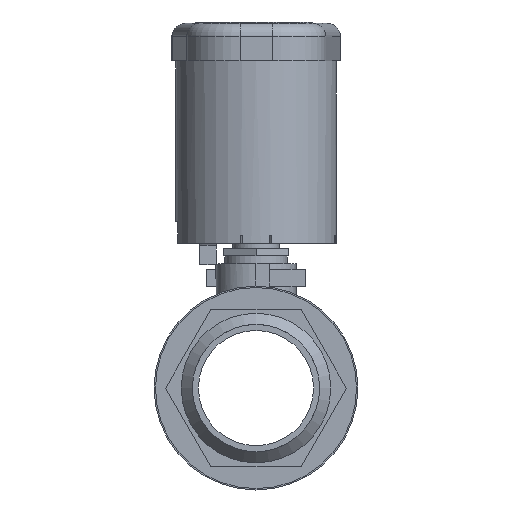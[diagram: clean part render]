
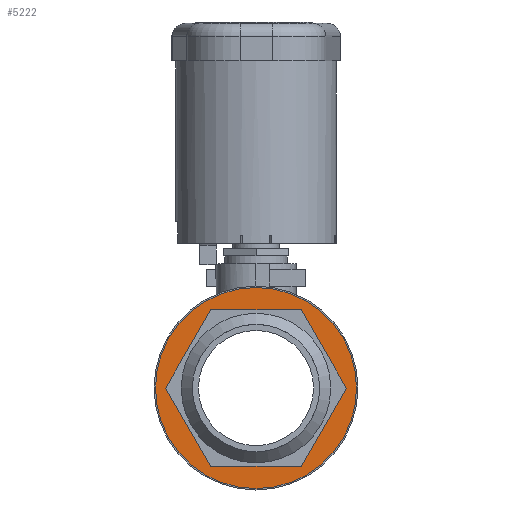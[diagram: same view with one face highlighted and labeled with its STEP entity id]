
A CAD part, left-side view. The second image highlights one B-rep face of the part: STEP entity #5222.
In plain terms, the highlighted planar face has unit normal (-1, 0, 0).
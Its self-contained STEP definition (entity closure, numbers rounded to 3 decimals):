
#5154 = CYLINDRICAL_SURFACE('',#5155,1.419);
#5155 = AXIS2_PLACEMENT_3D('',#5156,#5157,#5158);
#5156 = CARTESIAN_POINT('',(1.831,0.,
    0.));
#5157 = DIRECTION('',(1.,0.,0.));
#5158 = DIRECTION('',(0.,-1.,0.));
#5174 = VERTEX_POINT('',#5175);
#5175 = CARTESIAN_POINT('',(1.831,-1.419,0.));
#5195 = EDGE_CURVE('',#5174,#5174,#5196,.T.);
#5196 = SURFACE_CURVE('',#5197,(#5202,#5209),.PCURVE_S1.);
#5197 = CIRCLE('',#5198,1.419);
#5198 = AXIS2_PLACEMENT_3D('',#5199,#5200,#5201);
#5199 = CARTESIAN_POINT('',(1.831,0.,
    0.));
#5200 = DIRECTION('',(-1.,0.,0.));
#5201 = DIRECTION('',(0.,-1.,0.));
#5202 = PCURVE('',#5154,#5203);
#5203 = DEFINITIONAL_REPRESENTATION('',(#5204),#5208);
#5204 = LINE('',#5205,#5206);
#5205 = CARTESIAN_POINT('',(6.283,0.));
#5206 = VECTOR('',#5207,1.);
#5207 = DIRECTION('',(-1.,0.));
#5208 = ( GEOMETRIC_REPRESENTATION_CONTEXT(2) 
PARAMETRIC_REPRESENTATION_CONTEXT() REPRESENTATION_CONTEXT('2D SPACE',''
  ) );
#5209 = PCURVE('',#5210,#5215);
#5210 = PLANE('',#5211);
#5211 = AXIS2_PLACEMENT_3D('',#5212,#5213,#5214);
#5212 = CARTESIAN_POINT('',(1.831,0.,
    0.));
#5213 = DIRECTION('',(-1.,0.,0.));
#5214 = DIRECTION('',(0.,0.,1.));
#5215 = DEFINITIONAL_REPRESENTATION('',(#5216),#5220);
#5216 = CIRCLE('',#5217,1.419);
#5217 = AXIS2_PLACEMENT_2D('',#5218,#5219);
#5218 = CARTESIAN_POINT('',(0.,0.));
#5219 = DIRECTION('',(0.,-1.));
#5220 = ( GEOMETRIC_REPRESENTATION_CONTEXT(2) 
PARAMETRIC_REPRESENTATION_CONTEXT() REPRESENTATION_CONTEXT('2D SPACE',''
  ) );
#5222 = ADVANCED_FACE('',(#5223,#5393),#5210,.T.);
#5223 = FACE_BOUND('',#5224,.T.);
#5224 = EDGE_LOOP('',(#5225,#5255,#5283,#5311,#5339,#5367));
#5225 = ORIENTED_EDGE('',*,*,#5226,.T.);
#5226 = EDGE_CURVE('',#5227,#5229,#5231,.T.);
#5227 = VERTEX_POINT('',#5228);
#5228 = CARTESIAN_POINT('',(1.831,-0.638,1.105));
#5229 = VERTEX_POINT('',#5230);
#5230 = CARTESIAN_POINT('',(1.831,-1.276,0.));
#5231 = SURFACE_CURVE('',#5232,(#5236,#5243),.PCURVE_S1.);
#5232 = LINE('',#5233,#5234);
#5233 = CARTESIAN_POINT('',(1.831,-0.957,0.553));
#5234 = VECTOR('',#5235,1.);
#5235 = DIRECTION('',(0.,-0.5,-0.866));
#5236 = PCURVE('',#5210,#5237);
#5237 = DEFINITIONAL_REPRESENTATION('',(#5238),#5242);
#5238 = LINE('',#5239,#5240);
#5239 = CARTESIAN_POINT('',(0.553,-0.957));
#5240 = VECTOR('',#5241,1.);
#5241 = DIRECTION('',(-0.866,-0.5));
#5242 = ( GEOMETRIC_REPRESENTATION_CONTEXT(2) 
PARAMETRIC_REPRESENTATION_CONTEXT() REPRESENTATION_CONTEXT('2D SPACE',''
  ) );
#5243 = PCURVE('',#5244,#5249);
#5244 = PLANE('',#5245);
#5245 = AXIS2_PLACEMENT_3D('',#5246,#5247,#5248);
#5246 = CARTESIAN_POINT('',(1.456,-0.957,0.553));
#5247 = DIRECTION('',(0.,-0.866,0.5));
#5248 = DIRECTION('',(0.,-0.5,-0.866));
#5249 = DEFINITIONAL_REPRESENTATION('',(#5250),#5254);
#5250 = LINE('',#5251,#5252);
#5251 = CARTESIAN_POINT('',(0.,0.375));
#5252 = VECTOR('',#5253,1.);
#5253 = DIRECTION('',(1.,0.));
#5254 = ( GEOMETRIC_REPRESENTATION_CONTEXT(2) 
PARAMETRIC_REPRESENTATION_CONTEXT() REPRESENTATION_CONTEXT('2D SPACE',''
  ) );
#5255 = ORIENTED_EDGE('',*,*,#5256,.T.);
#5256 = EDGE_CURVE('',#5229,#5257,#5259,.T.);
#5257 = VERTEX_POINT('',#5258);
#5258 = CARTESIAN_POINT('',(1.831,-0.638,-1.105));
#5259 = SURFACE_CURVE('',#5260,(#5264,#5271),.PCURVE_S1.);
#5260 = LINE('',#5261,#5262);
#5261 = CARTESIAN_POINT('',(1.831,-0.957,-0.553));
#5262 = VECTOR('',#5263,1.);
#5263 = DIRECTION('',(0.,0.5,-0.866));
#5264 = PCURVE('',#5210,#5265);
#5265 = DEFINITIONAL_REPRESENTATION('',(#5266),#5270);
#5266 = LINE('',#5267,#5268);
#5267 = CARTESIAN_POINT('',(-0.553,-0.957));
#5268 = VECTOR('',#5269,1.);
#5269 = DIRECTION('',(-0.866,0.5));
#5270 = ( GEOMETRIC_REPRESENTATION_CONTEXT(2) 
PARAMETRIC_REPRESENTATION_CONTEXT() REPRESENTATION_CONTEXT('2D SPACE',''
  ) );
#5271 = PCURVE('',#5272,#5277);
#5272 = PLANE('',#5273);
#5273 = AXIS2_PLACEMENT_3D('',#5274,#5275,#5276);
#5274 = CARTESIAN_POINT('',(1.456,-0.957,-0.553));
#5275 = DIRECTION('',(0.,-0.866,-0.5));
#5276 = DIRECTION('',(0.,0.5,-0.866));
#5277 = DEFINITIONAL_REPRESENTATION('',(#5278),#5282);
#5278 = LINE('',#5279,#5280);
#5279 = CARTESIAN_POINT('',(0.,0.375));
#5280 = VECTOR('',#5281,1.);
#5281 = DIRECTION('',(1.,0.));
#5282 = ( GEOMETRIC_REPRESENTATION_CONTEXT(2) 
PARAMETRIC_REPRESENTATION_CONTEXT() REPRESENTATION_CONTEXT('2D SPACE',''
  ) );
#5283 = ORIENTED_EDGE('',*,*,#5284,.T.);
#5284 = EDGE_CURVE('',#5257,#5285,#5287,.T.);
#5285 = VERTEX_POINT('',#5286);
#5286 = CARTESIAN_POINT('',(1.831,0.638,-1.105));
#5287 = SURFACE_CURVE('',#5288,(#5292,#5299),.PCURVE_S1.);
#5288 = LINE('',#5289,#5290);
#5289 = CARTESIAN_POINT('',(1.831,0.,-1.105));
#5290 = VECTOR('',#5291,1.);
#5291 = DIRECTION('',(0.,1.,0.));
#5292 = PCURVE('',#5210,#5293);
#5293 = DEFINITIONAL_REPRESENTATION('',(#5294),#5298);
#5294 = LINE('',#5295,#5296);
#5295 = CARTESIAN_POINT('',(-1.105,0.));
#5296 = VECTOR('',#5297,1.);
#5297 = DIRECTION('',(0.,1.));
#5298 = ( GEOMETRIC_REPRESENTATION_CONTEXT(2) 
PARAMETRIC_REPRESENTATION_CONTEXT() REPRESENTATION_CONTEXT('2D SPACE',''
  ) );
#5299 = PCURVE('',#5300,#5305);
#5300 = PLANE('',#5301);
#5301 = AXIS2_PLACEMENT_3D('',#5302,#5303,#5304);
#5302 = CARTESIAN_POINT('',(1.456,0.,-1.105));
#5303 = DIRECTION('',(0.,0.,-1.));
#5304 = DIRECTION('',(0.,1.,0.));
#5305 = DEFINITIONAL_REPRESENTATION('',(#5306),#5310);
#5306 = LINE('',#5307,#5308);
#5307 = CARTESIAN_POINT('',(0.,0.375));
#5308 = VECTOR('',#5309,1.);
#5309 = DIRECTION('',(1.,0.));
#5310 = ( GEOMETRIC_REPRESENTATION_CONTEXT(2) 
PARAMETRIC_REPRESENTATION_CONTEXT() REPRESENTATION_CONTEXT('2D SPACE',''
  ) );
#5311 = ORIENTED_EDGE('',*,*,#5312,.T.);
#5312 = EDGE_CURVE('',#5285,#5313,#5315,.T.);
#5313 = VERTEX_POINT('',#5314);
#5314 = CARTESIAN_POINT('',(1.831,1.276,0.));
#5315 = SURFACE_CURVE('',#5316,(#5320,#5327),.PCURVE_S1.);
#5316 = LINE('',#5317,#5318);
#5317 = CARTESIAN_POINT('',(1.831,0.957,-0.553));
#5318 = VECTOR('',#5319,1.);
#5319 = DIRECTION('',(0.,0.5,0.866));
#5320 = PCURVE('',#5210,#5321);
#5321 = DEFINITIONAL_REPRESENTATION('',(#5322),#5326);
#5322 = LINE('',#5323,#5324);
#5323 = CARTESIAN_POINT('',(-0.553,0.957));
#5324 = VECTOR('',#5325,1.);
#5325 = DIRECTION('',(0.866,0.5));
#5326 = ( GEOMETRIC_REPRESENTATION_CONTEXT(2) 
PARAMETRIC_REPRESENTATION_CONTEXT() REPRESENTATION_CONTEXT('2D SPACE',''
  ) );
#5327 = PCURVE('',#5328,#5333);
#5328 = PLANE('',#5329);
#5329 = AXIS2_PLACEMENT_3D('',#5330,#5331,#5332);
#5330 = CARTESIAN_POINT('',(1.456,0.957,-0.553));
#5331 = DIRECTION('',(0.,0.866,-0.5));
#5332 = DIRECTION('',(0.,0.5,0.866));
#5333 = DEFINITIONAL_REPRESENTATION('',(#5334),#5338);
#5334 = LINE('',#5335,#5336);
#5335 = CARTESIAN_POINT('',(0.,0.375));
#5336 = VECTOR('',#5337,1.);
#5337 = DIRECTION('',(1.,0.));
#5338 = ( GEOMETRIC_REPRESENTATION_CONTEXT(2) 
PARAMETRIC_REPRESENTATION_CONTEXT() REPRESENTATION_CONTEXT('2D SPACE',''
  ) );
#5339 = ORIENTED_EDGE('',*,*,#5340,.T.);
#5340 = EDGE_CURVE('',#5313,#5341,#5343,.T.);
#5341 = VERTEX_POINT('',#5342);
#5342 = CARTESIAN_POINT('',(1.831,0.638,1.105));
#5343 = SURFACE_CURVE('',#5344,(#5348,#5355),.PCURVE_S1.);
#5344 = LINE('',#5345,#5346);
#5345 = CARTESIAN_POINT('',(1.831,0.957,0.553));
#5346 = VECTOR('',#5347,1.);
#5347 = DIRECTION('',(0.,-0.5,0.866));
#5348 = PCURVE('',#5210,#5349);
#5349 = DEFINITIONAL_REPRESENTATION('',(#5350),#5354);
#5350 = LINE('',#5351,#5352);
#5351 = CARTESIAN_POINT('',(0.553,0.957));
#5352 = VECTOR('',#5353,1.);
#5353 = DIRECTION('',(0.866,-0.5));
#5354 = ( GEOMETRIC_REPRESENTATION_CONTEXT(2) 
PARAMETRIC_REPRESENTATION_CONTEXT() REPRESENTATION_CONTEXT('2D SPACE',''
  ) );
#5355 = PCURVE('',#5356,#5361);
#5356 = PLANE('',#5357);
#5357 = AXIS2_PLACEMENT_3D('',#5358,#5359,#5360);
#5358 = CARTESIAN_POINT('',(1.456,0.957,0.553));
#5359 = DIRECTION('',(0.,0.866,0.5));
#5360 = DIRECTION('',(0.,-0.5,0.866));
#5361 = DEFINITIONAL_REPRESENTATION('',(#5362),#5366);
#5362 = LINE('',#5363,#5364);
#5363 = CARTESIAN_POINT('',(0.,0.375));
#5364 = VECTOR('',#5365,1.);
#5365 = DIRECTION('',(1.,0.));
#5366 = ( GEOMETRIC_REPRESENTATION_CONTEXT(2) 
PARAMETRIC_REPRESENTATION_CONTEXT() REPRESENTATION_CONTEXT('2D SPACE',''
  ) );
#5367 = ORIENTED_EDGE('',*,*,#5368,.T.);
#5368 = EDGE_CURVE('',#5341,#5227,#5369,.T.);
#5369 = SURFACE_CURVE('',#5370,(#5374,#5381),.PCURVE_S1.);
#5370 = LINE('',#5371,#5372);
#5371 = CARTESIAN_POINT('',(1.831,0.,1.105));
#5372 = VECTOR('',#5373,1.);
#5373 = DIRECTION('',(0.,-1.,0.));
#5374 = PCURVE('',#5210,#5375);
#5375 = DEFINITIONAL_REPRESENTATION('',(#5376),#5380);
#5376 = LINE('',#5377,#5378);
#5377 = CARTESIAN_POINT('',(1.105,0.));
#5378 = VECTOR('',#5379,1.);
#5379 = DIRECTION('',(0.,-1.));
#5380 = ( GEOMETRIC_REPRESENTATION_CONTEXT(2) 
PARAMETRIC_REPRESENTATION_CONTEXT() REPRESENTATION_CONTEXT('2D SPACE',''
  ) );
#5381 = PCURVE('',#5382,#5387);
#5382 = PLANE('',#5383);
#5383 = AXIS2_PLACEMENT_3D('',#5384,#5385,#5386);
#5384 = CARTESIAN_POINT('',(1.456,0.,1.105));
#5385 = DIRECTION('',(0.,0.,1.));
#5386 = DIRECTION('',(0.,-1.,0.));
#5387 = DEFINITIONAL_REPRESENTATION('',(#5388),#5392);
#5388 = LINE('',#5389,#5390);
#5389 = CARTESIAN_POINT('',(0.,0.375));
#5390 = VECTOR('',#5391,1.);
#5391 = DIRECTION('',(1.,0.));
#5392 = ( GEOMETRIC_REPRESENTATION_CONTEXT(2) 
PARAMETRIC_REPRESENTATION_CONTEXT() REPRESENTATION_CONTEXT('2D SPACE',''
  ) );
#5393 = FACE_BOUND('',#5394,.T.);
#5394 = EDGE_LOOP('',(#5395));
#5395 = ORIENTED_EDGE('',*,*,#5195,.T.);
